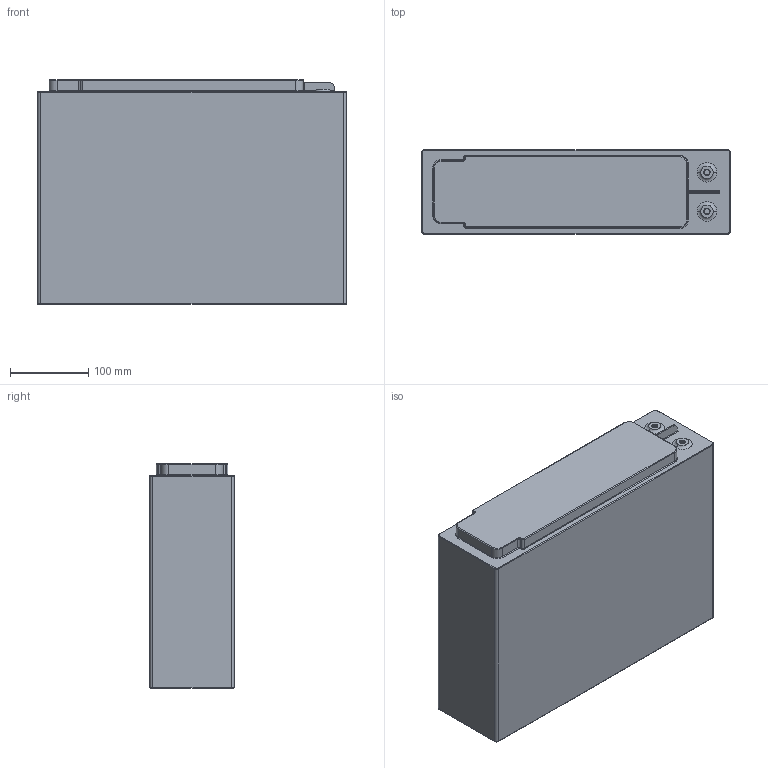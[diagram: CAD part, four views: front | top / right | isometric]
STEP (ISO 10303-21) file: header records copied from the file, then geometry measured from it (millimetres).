
FILE_DESCRIPTION (( 'STEP AP203' ), '1' );
FILE_NAME ('PB135Ah Blade.STEP', '2023-10-10T14:23:28', ( '' ), ( '' ), 'SwSTEP 2.0', 'SolidWorks 2020', '' );
FILE_SCHEMA (( 'CONFIG_CONTROL_DESIGN' ));
Length unit declared in the file: millimetre
Products named in the file (1): PB135Ah Blade
Bounding box: 395 x 108 x 287 mm (x, y, z)
Volume: 12040810.2 mm3; surface area: 369636.2 mm2
Topology: 1 solids, 1 shells, 138 faces, 331 edges, 200 vertices
Faces by surface type: cylinder 76, torus 28, plane 28, bspline 6
Entity records: 6374 total; most frequent: CARTESIAN_POINT 3242, ORIENTED_EDGE 662, DIRECTION 647, EDGE_CURVE 331, AXIS2_PLACEMENT_3D 253, VERTEX_POINT 200, EDGE_LOOP 143, LINE 141
